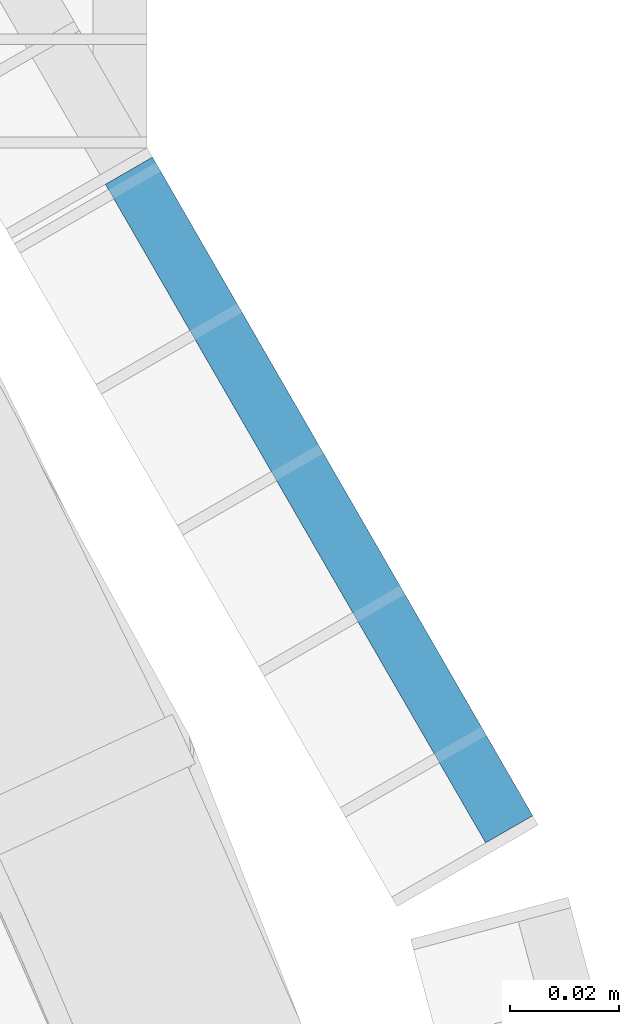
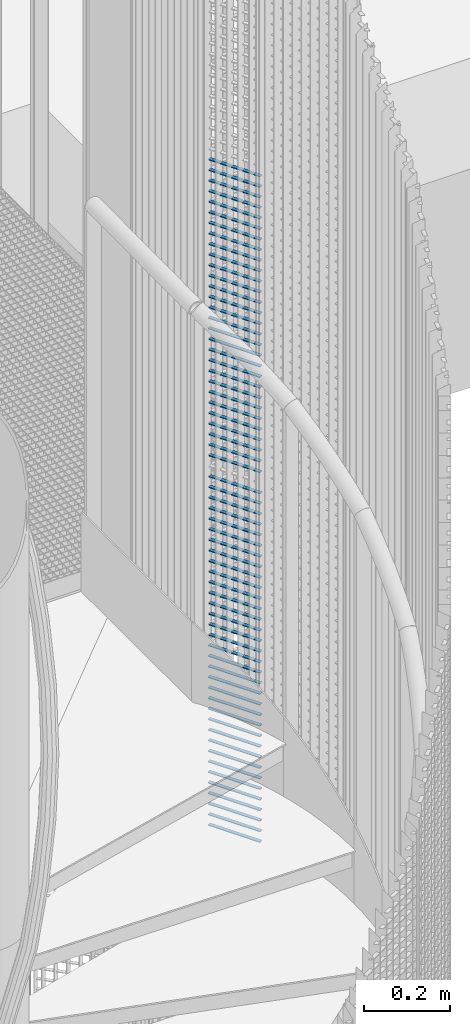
# One storey, part 293 of 1183: 63 beams, 1 element without a shape of its own.
"""IFC2X3 building model written with IfcOpenShell, lengths in millimetres."""

from ifc_helpers import new_model, si_unit, frame, origin_with_axes, origin_2d_with_axis, place, context, subcontext, project, spatial, rectangle, extrude, material, type_object, element, aggregate, save


model = new_model("IFC2X3")

# Units and contexts
model_context = context("Model", 3, precision=1e-05, world=origin_with_axes())
body_context = subcontext(model_context, "Body", "Model", "MODEL_VIEW")
ifc_project = project(units=[si_unit("LENGTHUNIT", "METRE", prefix="MILLI"), si_unit("AREAUNIT", "SQUARE_METRE"), si_unit("VOLUMEUNIT", "CUBIC_METRE"), si_unit("MASSUNIT", "GRAM", prefix="KILO"), si_unit("TIMEUNIT", "SECOND"), si_unit("PLANEANGLEUNIT", "RADIAN"), si_unit("SOLIDANGLEUNIT", "STERADIAN"), si_unit("THERMODYNAMICTEMPERATUREUNIT", "DEGREE_CELSIUS"), si_unit("LUMINOUSINTENSITYUNIT", "LUMEN")], contexts=[model_context])

# Site, building, storey
site_placement = place(None, origin_with_axes())
site = spatial("IfcSite", under=ifc_project, at=site_placement, Name="Undefined", CompositionType="ELEMENT")
building_placement = place(site_placement, origin_with_axes())
building = spatial("IfcBuilding", under=site, at=building_placement, Name="Undefined", CompositionType="ELEMENT")
storey_placement = place(building_placement, origin_with_axes())
storey = spatial("IfcBuildingStorey", under=building, at=storey_placement, Name="Undefined", CompositionType="ELEMENT", Elevation=0.0)

# Assembly, beams
assembly_placement = place(storey_placement, origin_with_axes())
assembly = element("IfcElementAssembly", 1, at=assembly_placement, inside=storey, Name="BORDURE", AssemblyPlace="NOTDEFINED", PredefinedType="NOTDEFINED")
ifc_material = material(Name="STEEL/S235JR")
beam_type = type_object("IfcBeamType", Name="PL2*10", PredefinedType="NOTDEFINED")
beam_1_placement = place(assembly_placement, frame((1033.29994283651, 437.231999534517, 7980.0), z_axis=(0.866030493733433, 0.499991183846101, 0.0), x_axis=(-0.499991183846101, 0.866030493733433, 0.0)))
beam_1 = element("IfcBeam", 2, at=beam_1_placement, type_object=beam_type, material=ifc_material, Name="ENTRETOISE", context=body_context, shape_type="SweptSolid", body=[
    extrude(rectangle(XDim=2.0, YDim=10.0, at=origin_2d_with_axis()), frame((140.102470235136, 0.0, 0.0), z_axis=(-1.0, 0.0, 0.0), x_axis=(0.0, -1.0, 0.0)), (0.0, 0.0, 1.0), 140.1),
])
beam_2_placement = place(assembly_placement, frame((1033.29994283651, 437.231999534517, 7950.0), z_axis=(0.866030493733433, 0.499991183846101, 0.0), x_axis=(-0.499991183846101, 0.866030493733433, 0.0)))
beam_2 = element("IfcBeam", 3, at=beam_2_placement, type_object=beam_type, material=ifc_material, Name="ENTRETOISE", context=body_context, shape_type="SweptSolid", body=[
    extrude(rectangle(XDim=2.0, YDim=10.0, at=origin_2d_with_axis()), frame((140.102470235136, 0.0, 0.0), z_axis=(-1.0, 0.0, 0.0), x_axis=(0.0, -1.0, 0.0)), (0.0, 0.0, 1.0), 140.1),
])
beam_3_placement = place(assembly_placement, frame((1033.29994283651, 437.231999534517, 7920.0), z_axis=(0.866030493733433, 0.499991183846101, 0.0), x_axis=(-0.499991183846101, 0.866030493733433, 0.0)))
beam_3 = element("IfcBeam", 4, at=beam_3_placement, type_object=beam_type, material=ifc_material, Name="ENTRETOISE", context=body_context, shape_type="SweptSolid", body=[
    extrude(rectangle(XDim=2.0, YDim=10.0, at=origin_2d_with_axis()), frame((140.102470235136, 0.0, 0.0), z_axis=(-1.0, 0.0, 0.0), x_axis=(0.0, -1.0, 0.0)), (0.0, 0.0, 1.0), 140.1),
])
beam_4_placement = place(assembly_placement, frame((1033.29994283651, 437.231999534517, 7890.0), z_axis=(0.866030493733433, 0.499991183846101, 0.0), x_axis=(-0.499991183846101, 0.866030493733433, 0.0)))
beam_4 = element("IfcBeam", 5, at=beam_4_placement, type_object=beam_type, material=ifc_material, Name="ENTRETOISE", context=body_context, shape_type="SweptSolid", body=[
    extrude(rectangle(XDim=2.0, YDim=10.0, at=origin_2d_with_axis()), frame((140.102470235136, 0.0, 0.0), z_axis=(-1.0, 0.0, 0.0), x_axis=(0.0, -1.0, 0.0)), (0.0, 0.0, 1.0), 140.1),
])
beam_5_placement = place(assembly_placement, frame((1033.29994283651, 437.231999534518, 7860.0), z_axis=(0.866030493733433, 0.499991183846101, 0.0), x_axis=(-0.499991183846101, 0.866030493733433, 0.0)))
beam_5 = element("IfcBeam", 6, at=beam_5_placement, type_object=beam_type, material=ifc_material, Name="ENTRETOISE", context=body_context, shape_type="SweptSolid", body=[
    extrude(rectangle(XDim=2.0, YDim=10.0, at=origin_2d_with_axis()), frame((140.102470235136, 0.0, 0.0), z_axis=(-1.0, 0.0, 0.0), x_axis=(0.0, -1.0, 0.0)), (0.0, 0.0, 1.0), 140.1),
])
beam_6_placement = place(assembly_placement, frame((1033.29994283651, 437.231999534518, 7830.0), z_axis=(0.866030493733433, 0.499991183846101, 0.0), x_axis=(-0.499991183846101, 0.866030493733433, 0.0)))
beam_6 = element("IfcBeam", 7, at=beam_6_placement, type_object=beam_type, material=ifc_material, Name="ENTRETOISE", context=body_context, shape_type="SweptSolid", body=[
    extrude(rectangle(XDim=2.0, YDim=10.0, at=origin_2d_with_axis()), frame((140.102470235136, 0.0, 0.0), z_axis=(-1.0, 0.0, 0.0), x_axis=(0.0, -1.0, 0.0)), (0.0, 0.0, 1.0), 140.1),
])
beam_7_placement = place(assembly_placement, frame((1033.29994283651, 437.231999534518, 7800.0), z_axis=(0.866030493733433, 0.499991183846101, 0.0), x_axis=(-0.499991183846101, 0.866030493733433, 0.0)))
beam_7 = element("IfcBeam", 8, at=beam_7_placement, type_object=beam_type, material=ifc_material, Name="ENTRETOISE", context=body_context, shape_type="SweptSolid", body=[
    extrude(rectangle(XDim=2.0, YDim=10.0, at=origin_2d_with_axis()), frame((140.102470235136, 0.0, 0.0), z_axis=(-1.0, 0.0, 0.0), x_axis=(0.0, -1.0, 0.0)), (0.0, 0.0, 1.0), 140.1),
])
beam_8_placement = place(assembly_placement, frame((1033.29994283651, 437.231999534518, 7770.0), z_axis=(0.866030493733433, 0.499991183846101, 0.0), x_axis=(-0.499991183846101, 0.866030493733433, 0.0)))
beam_8 = element("IfcBeam", 9, at=beam_8_placement, type_object=beam_type, material=ifc_material, Name="ENTRETOISE", context=body_context, shape_type="SweptSolid", body=[
    extrude(rectangle(XDim=2.0, YDim=10.0, at=origin_2d_with_axis()), frame((140.102470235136, 0.0, 0.0), z_axis=(-1.0, 0.0, 0.0), x_axis=(0.0, -1.0, 0.0)), (0.0, 0.0, 1.0), 140.1),
])
beam_9_placement = place(assembly_placement, frame((1033.29994283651, 437.231999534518, 7740.0), z_axis=(0.866030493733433, 0.499991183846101, 0.0), x_axis=(-0.499991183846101, 0.866030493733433, 0.0)))
beam_9 = element("IfcBeam", 10, at=beam_9_placement, type_object=beam_type, material=ifc_material, Name="ENTRETOISE", context=body_context, shape_type="SweptSolid", body=[
    extrude(rectangle(XDim=2.0, YDim=10.0, at=origin_2d_with_axis()), frame((140.102470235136, 0.0, 0.0), z_axis=(-1.0, 0.0, 0.0), x_axis=(0.0, -1.0, 0.0)), (0.0, 0.0, 1.0), 140.1),
])
beam_10_placement = place(assembly_placement, frame((1033.29994283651, 437.231999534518, 7710.0), z_axis=(0.866030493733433, 0.499991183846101, 0.0), x_axis=(-0.499991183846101, 0.866030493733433, 0.0)))
beam_10 = element("IfcBeam", 11, at=beam_10_placement, type_object=beam_type, material=ifc_material, Name="ENTRETOISE", context=body_context, shape_type="SweptSolid", body=[
    extrude(rectangle(XDim=2.0, YDim=10.0, at=origin_2d_with_axis()), frame((140.102470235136, 0.0, 0.0), z_axis=(-1.0, 0.0, 0.0), x_axis=(0.0, -1.0, 0.0)), (0.0, 0.0, 1.0), 140.1),
])
beam_11_placement = place(assembly_placement, frame((1033.29994283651, 437.231999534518, 7680.0), z_axis=(0.866030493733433, 0.499991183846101, 0.0), x_axis=(-0.499991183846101, 0.866030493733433, 0.0)))
beam_11 = element("IfcBeam", 12, at=beam_11_placement, type_object=beam_type, material=ifc_material, Name="ENTRETOISE", context=body_context, shape_type="SweptSolid", body=[
    extrude(rectangle(XDim=2.0, YDim=10.0, at=origin_2d_with_axis()), frame((140.102470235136, 0.0, 0.0), z_axis=(-1.0, 0.0, 0.0), x_axis=(0.0, -1.0, 0.0)), (0.0, 0.0, 1.0), 140.1),
])
beam_12_placement = place(assembly_placement, frame((1033.29994283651, 437.231999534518, 7650.0), z_axis=(0.866030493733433, 0.499991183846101, 0.0), x_axis=(-0.499991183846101, 0.866030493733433, 0.0)))
beam_12 = element("IfcBeam", 13, at=beam_12_placement, type_object=beam_type, material=ifc_material, Name="ENTRETOISE", context=body_context, shape_type="SweptSolid", body=[
    extrude(rectangle(XDim=2.0, YDim=10.0, at=origin_2d_with_axis()), frame((140.102470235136, 0.0, 0.0), z_axis=(-1.0, 0.0, 0.0), x_axis=(0.0, -1.0, 0.0)), (0.0, 0.0, 1.0), 140.1),
])
beam_13_placement = place(assembly_placement, frame((1033.29994283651, 437.231999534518, 7620.0), z_axis=(0.866030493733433, 0.499991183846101, 0.0), x_axis=(-0.499991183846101, 0.866030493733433, 0.0)))
beam_13 = element("IfcBeam", 14, at=beam_13_placement, type_object=beam_type, material=ifc_material, Name="ENTRETOISE", context=body_context, shape_type="SweptSolid", body=[
    extrude(rectangle(XDim=2.0, YDim=10.0, at=origin_2d_with_axis()), frame((140.102470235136, 0.0, 0.0), z_axis=(-1.0, 0.0, 0.0), x_axis=(0.0, -1.0, 0.0)), (0.0, 0.0, 1.0), 140.1),
])
beam_14_placement = place(assembly_placement, frame((1033.29994283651, 437.231999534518, 7590.0), z_axis=(0.866030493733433, 0.499991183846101, 0.0), x_axis=(-0.499991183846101, 0.866030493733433, 0.0)))
beam_14 = element("IfcBeam", 15, at=beam_14_placement, type_object=beam_type, material=ifc_material, Name="ENTRETOISE", context=body_context, shape_type="SweptSolid", body=[
    extrude(rectangle(XDim=2.0, YDim=10.0, at=origin_2d_with_axis()), frame((140.102470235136, 0.0, 0.0), z_axis=(-1.0, 0.0, 0.0), x_axis=(0.0, -1.0, 0.0)), (0.0, 0.0, 1.0), 140.1),
])
beam_15_placement = place(assembly_placement, frame((1033.29994283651, 437.231999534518, 7560.0), z_axis=(0.866030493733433, 0.499991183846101, 0.0), x_axis=(-0.499991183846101, 0.866030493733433, 0.0)))
beam_15 = element("IfcBeam", 16, at=beam_15_placement, type_object=beam_type, material=ifc_material, Name="ENTRETOISE", context=body_context, shape_type="SweptSolid", body=[
    extrude(rectangle(XDim=2.0, YDim=10.0, at=origin_2d_with_axis()), frame((140.102470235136, 0.0, 0.0), z_axis=(-1.0, 0.0, 0.0), x_axis=(0.0, -1.0, 0.0)), (0.0, 0.0, 1.0), 140.1),
])
beam_16_placement = place(assembly_placement, frame((1033.29994283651, 437.231999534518, 7530.0), z_axis=(0.866030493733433, 0.499991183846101, 0.0), x_axis=(-0.499991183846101, 0.866030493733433, 0.0)))
beam_16 = element("IfcBeam", 17, at=beam_16_placement, type_object=beam_type, material=ifc_material, Name="ENTRETOISE", context=body_context, shape_type="SweptSolid", body=[
    extrude(rectangle(XDim=2.0, YDim=10.0, at=origin_2d_with_axis()), frame((140.102470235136, 0.0, 0.0), z_axis=(-1.0, 0.0, 0.0), x_axis=(0.0, -1.0, 0.0)), (0.0, 0.0, 1.0), 140.1),
])
beam_17_placement = place(assembly_placement, frame((1033.29994283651, 437.231999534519, 7500.0), z_axis=(0.866030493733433, 0.499991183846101, 0.0), x_axis=(-0.499991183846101, 0.866030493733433, 0.0)))
beam_17 = element("IfcBeam", 18, at=beam_17_placement, type_object=beam_type, material=ifc_material, Name="ENTRETOISE", context=body_context, shape_type="SweptSolid", body=[
    extrude(rectangle(XDim=2.0, YDim=10.0, at=origin_2d_with_axis()), frame((140.102470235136, 0.0, 0.0), z_axis=(-1.0, 0.0, 0.0), x_axis=(0.0, -1.0, 0.0)), (0.0, 0.0, 1.0), 140.1),
])
beam_18_placement = place(assembly_placement, frame((1033.29994283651, 437.231999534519, 7470.0), z_axis=(0.866030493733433, 0.499991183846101, 0.0), x_axis=(-0.499991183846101, 0.866030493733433, 0.0)))
beam_18 = element("IfcBeam", 19, at=beam_18_placement, type_object=beam_type, material=ifc_material, Name="ENTRETOISE", context=body_context, shape_type="SweptSolid", body=[
    extrude(rectangle(XDim=2.0, YDim=10.0, at=origin_2d_with_axis()), frame((140.102470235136, 0.0, 0.0), z_axis=(-1.0, 0.0, 0.0), x_axis=(0.0, -1.0, 0.0)), (0.0, 0.0, 1.0), 140.1),
])
beam_19_placement = place(assembly_placement, frame((1033.29994283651, 437.231999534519, 7440.0), z_axis=(0.866030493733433, 0.499991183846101, 0.0), x_axis=(-0.499991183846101, 0.866030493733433, 0.0)))
beam_19 = element("IfcBeam", 20, at=beam_19_placement, type_object=beam_type, material=ifc_material, Name="ENTRETOISE", context=body_context, shape_type="SweptSolid", body=[
    extrude(rectangle(XDim=2.0, YDim=10.0, at=origin_2d_with_axis()), frame((140.102470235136, 0.0, 0.0), z_axis=(-1.0, 0.0, 0.0), x_axis=(0.0, -1.0, 0.0)), (0.0, 0.0, 1.0), 140.1),
])
beam_20_placement = place(assembly_placement, frame((1033.29994283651, 437.231999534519, 7410.0), z_axis=(0.866030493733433, 0.499991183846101, 0.0), x_axis=(-0.499991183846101, 0.866030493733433, 0.0)))
beam_20 = element("IfcBeam", 21, at=beam_20_placement, type_object=beam_type, material=ifc_material, Name="ENTRETOISE", context=body_context, shape_type="SweptSolid", body=[
    extrude(rectangle(XDim=2.0, YDim=10.0, at=origin_2d_with_axis()), frame((140.102470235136, 0.0, 0.0), z_axis=(-1.0, 0.0, 0.0), x_axis=(0.0, -1.0, 0.0)), (0.0, 0.0, 1.0), 140.1),
])
beam_21_placement = place(assembly_placement, frame((1033.29994283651, 437.231999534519, 7380.0), z_axis=(0.866030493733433, 0.499991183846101, 0.0), x_axis=(-0.499991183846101, 0.866030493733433, 0.0)))
beam_21 = element("IfcBeam", 22, at=beam_21_placement, type_object=beam_type, material=ifc_material, Name="ENTRETOISE", context=body_context, shape_type="SweptSolid", body=[
    extrude(rectangle(XDim=2.0, YDim=10.0, at=origin_2d_with_axis()), frame((140.102470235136, 0.0, 0.0), z_axis=(-1.0, 0.0, 0.0), x_axis=(0.0, -1.0, 0.0)), (0.0, 0.0, 1.0), 140.1),
])
beam_22_placement = place(assembly_placement, frame((1033.29994283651, 437.231999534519, 7350.0), z_axis=(0.866030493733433, 0.499991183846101, 0.0), x_axis=(-0.499991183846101, 0.866030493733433, 0.0)))
beam_22 = element("IfcBeam", 23, at=beam_22_placement, type_object=beam_type, material=ifc_material, Name="ENTRETOISE", context=body_context, shape_type="SweptSolid", body=[
    extrude(rectangle(XDim=2.0, YDim=10.0, at=origin_2d_with_axis()), frame((140.102470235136, 0.0, 0.0), z_axis=(-1.0, 0.0, 0.0), x_axis=(0.0, -1.0, 0.0)), (0.0, 0.0, 1.0), 140.1),
])
beam_23_placement = place(assembly_placement, frame((1033.29994283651, 437.231999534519, 7320.0), z_axis=(0.866030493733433, 0.499991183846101, 0.0), x_axis=(-0.499991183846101, 0.866030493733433, 0.0)))
beam_23 = element("IfcBeam", 24, at=beam_23_placement, type_object=beam_type, material=ifc_material, Name="ENTRETOISE", context=body_context, shape_type="SweptSolid", body=[
    extrude(rectangle(XDim=2.0, YDim=10.0, at=origin_2d_with_axis()), frame((140.102470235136, 0.0, 0.0), z_axis=(-1.0, 0.0, 0.0), x_axis=(0.0, -1.0, 0.0)), (0.0, 0.0, 1.0), 140.1),
])
beam_24_placement = place(assembly_placement, frame((1033.29994283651, 437.231999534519, 7290.0), z_axis=(0.866030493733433, 0.499991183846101, 0.0), x_axis=(-0.499991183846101, 0.866030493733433, 0.0)))
beam_24 = element("IfcBeam", 25, at=beam_24_placement, type_object=beam_type, material=ifc_material, Name="ENTRETOISE", context=body_context, shape_type="SweptSolid", body=[
    extrude(rectangle(XDim=2.0, YDim=10.0, at=origin_2d_with_axis()), frame((140.102470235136, 0.0, 0.0), z_axis=(-1.0, 0.0, 0.0), x_axis=(0.0, -1.0, 0.0)), (0.0, 0.0, 1.0), 140.1),
])
beam_25_placement = place(assembly_placement, frame((1033.29994283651, 437.231999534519, 7260.0), z_axis=(0.866030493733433, 0.499991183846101, 0.0), x_axis=(-0.499991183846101, 0.866030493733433, 0.0)))
beam_25 = element("IfcBeam", 26, at=beam_25_placement, type_object=beam_type, material=ifc_material, Name="ENTRETOISE", context=body_context, shape_type="SweptSolid", body=[
    extrude(rectangle(XDim=2.0, YDim=10.0, at=origin_2d_with_axis()), frame((140.102470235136, 0.0, 0.0), z_axis=(-1.0, 0.0, 0.0), x_axis=(0.0, -1.0, 0.0)), (0.0, 0.0, 1.0), 140.1),
])
beam_26_placement = place(assembly_placement, frame((1033.29994283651, 437.231999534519, 7230.0), z_axis=(0.866030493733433, 0.499991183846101, 0.0), x_axis=(-0.499991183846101, 0.866030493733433, 0.0)))
beam_26 = element("IfcBeam", 27, at=beam_26_placement, type_object=beam_type, material=ifc_material, Name="ENTRETOISE", context=body_context, shape_type="SweptSolid", body=[
    extrude(rectangle(XDim=2.0, YDim=10.0, at=origin_2d_with_axis()), frame((140.102470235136, 0.0, 0.0), z_axis=(-1.0, 0.0, 0.0), x_axis=(0.0, -1.0, 0.0)), (0.0, 0.0, 1.0), 140.1),
])
beam_27_placement = place(assembly_placement, frame((1033.29994283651, 437.231999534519, 7200.0), z_axis=(0.866030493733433, 0.499991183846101, 0.0), x_axis=(-0.499991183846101, 0.866030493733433, 0.0)))
beam_27 = element("IfcBeam", 28, at=beam_27_placement, type_object=beam_type, material=ifc_material, Name="ENTRETOISE", context=body_context, shape_type="SweptSolid", body=[
    extrude(rectangle(XDim=2.0, YDim=10.0, at=origin_2d_with_axis()), frame((140.102470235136, 0.0, 0.0), z_axis=(-1.0, 0.0, 0.0), x_axis=(0.0, -1.0, 0.0)), (0.0, 0.0, 1.0), 140.1),
])
beam_28_placement = place(assembly_placement, frame((1033.29994283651, 437.23199953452, 7170.0), z_axis=(0.866030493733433, 0.499991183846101, 0.0), x_axis=(-0.499991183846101, 0.866030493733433, 0.0)))
beam_28 = element("IfcBeam", 29, at=beam_28_placement, type_object=beam_type, material=ifc_material, Name="ENTRETOISE", context=body_context, shape_type="SweptSolid", body=[
    extrude(rectangle(XDim=2.0, YDim=10.0, at=origin_2d_with_axis()), frame((140.102470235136, 0.0, 0.0), z_axis=(-1.0, 0.0, 0.0), x_axis=(0.0, -1.0, 0.0)), (0.0, 0.0, 1.0), 140.1),
])
beam_29_placement = place(assembly_placement, frame((1033.29994283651, 437.23199953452, 7140.0), z_axis=(0.866030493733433, 0.499991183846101, 0.0), x_axis=(-0.499991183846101, 0.866030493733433, 0.0)))
beam_29 = element("IfcBeam", 30, at=beam_29_placement, type_object=beam_type, material=ifc_material, Name="ENTRETOISE", context=body_context, shape_type="SweptSolid", body=[
    extrude(rectangle(XDim=2.0, YDim=10.0, at=origin_2d_with_axis()), frame((140.102470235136, 0.0, 0.0), z_axis=(-1.0, 0.0, 0.0), x_axis=(0.0, -1.0, 0.0)), (0.0, 0.0, 1.0), 140.1),
])
beam_30_placement = place(assembly_placement, frame((1033.29994283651, 437.231999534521, 6720.0), z_axis=(0.866030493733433, 0.499991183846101, 0.0), x_axis=(-0.499991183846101, 0.866030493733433, 0.0)))
beam_30 = element("IfcBeam", 31, at=beam_30_placement, type_object=beam_type, material=ifc_material, Name="ENTRETOISE", context=body_context, shape_type="SweptSolid", body=[
    extrude(rectangle(XDim=2.0, YDim=10.0, at=origin_2d_with_axis()), frame((140.102470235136, 0.0, 0.0), z_axis=(-1.0, 0.0, 0.0), x_axis=(0.0, -1.0, 0.0)), (0.0, 0.0, 1.0), 140.1),
])
beam_31_placement = place(assembly_placement, frame((1033.29994283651, 437.231999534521, 6690.0), z_axis=(0.866030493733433, 0.499991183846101, 0.0), x_axis=(-0.499991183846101, 0.866030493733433, 0.0)))
beam_31 = element("IfcBeam", 32, at=beam_31_placement, type_object=beam_type, material=ifc_material, Name="ENTRETOISE", context=body_context, shape_type="SweptSolid", body=[
    extrude(rectangle(XDim=2.0, YDim=10.0, at=origin_2d_with_axis()), frame((140.102470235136, 0.0, 0.0), z_axis=(-1.0, 0.0, 0.0), x_axis=(0.0, -1.0, 0.0)), (0.0, 0.0, 1.0), 140.1),
])
beam_32_placement = place(assembly_placement, frame((1033.29994283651, 437.231999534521, 6750.0), z_axis=(0.866030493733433, 0.499991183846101, 0.0), x_axis=(-0.499991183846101, 0.866030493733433, 0.0)))
beam_32 = element("IfcBeam", 33, at=beam_32_placement, type_object=beam_type, material=ifc_material, Name="ENTRETOISE", context=body_context, shape_type="SweptSolid", body=[
    extrude(rectangle(XDim=2.0, YDim=10.0, at=origin_2d_with_axis()), frame((140.102470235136, 0.0, 0.0), z_axis=(-1.0, 0.0, 0.0), x_axis=(0.0, -1.0, 0.0)), (0.0, 0.0, 1.0), 140.1),
])
beam_33_placement = place(assembly_placement, frame((1033.29994283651, 437.231999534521, 6660.0), z_axis=(0.866030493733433, 0.499991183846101, 0.0), x_axis=(-0.499991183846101, 0.866030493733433, 0.0)))
beam_33 = element("IfcBeam", 34, at=beam_33_placement, type_object=beam_type, material=ifc_material, Name="ENTRETOISE", context=body_context, shape_type="SweptSolid", body=[
    extrude(rectangle(XDim=2.0, YDim=10.0, at=origin_2d_with_axis()), frame((140.102470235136, 0.0, 0.0), z_axis=(-1.0, 0.0, 0.0), x_axis=(0.0, -1.0, 0.0)), (0.0, 0.0, 1.0), 140.1),
])
beam_34_placement = place(assembly_placement, frame((1033.29994283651, 437.231999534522, 6630.0), z_axis=(0.866030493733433, 0.499991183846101, 0.0), x_axis=(-0.499991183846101, 0.866030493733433, 0.0)))
beam_34 = element("IfcBeam", 35, at=beam_34_placement, type_object=beam_type, material=ifc_material, Name="ENTRETOISE", context=body_context, shape_type="SweptSolid", body=[
    extrude(rectangle(XDim=2.0, YDim=10.0, at=origin_2d_with_axis()), frame((140.102470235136, 0.0, 0.0), z_axis=(-1.0, 0.0, 0.0), x_axis=(0.0, -1.0, 0.0)), (0.0, 0.0, 1.0), 140.1),
])
beam_35_placement = place(assembly_placement, frame((1033.29994283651, 437.231999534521, 6780.0), z_axis=(0.866030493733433, 0.499991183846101, 0.0), x_axis=(-0.499991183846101, 0.866030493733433, 0.0)))
beam_35 = element("IfcBeam", 36, at=beam_35_placement, type_object=beam_type, material=ifc_material, Name="ENTRETOISE", context=body_context, shape_type="SweptSolid", body=[
    extrude(rectangle(XDim=2.0, YDim=10.0, at=origin_2d_with_axis()), frame((140.102470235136, 0.0, 0.0), z_axis=(-1.0, 0.0, 0.0), x_axis=(0.0, -1.0, 0.0)), (0.0, 0.0, 1.0), 140.1),
])
beam_36_placement = place(assembly_placement, frame((1033.29994283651, 437.231999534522, 6600.0), z_axis=(0.866030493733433, 0.499991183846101, 0.0), x_axis=(-0.499991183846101, 0.866030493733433, 0.0)))
beam_36 = element("IfcBeam", 37, at=beam_36_placement, type_object=beam_type, material=ifc_material, Name="ENTRETOISE", context=body_context, shape_type="SweptSolid", body=[
    extrude(rectangle(XDim=2.0, YDim=10.0, at=origin_2d_with_axis()), frame((140.102470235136, 0.0, 0.0), z_axis=(-1.0, 0.0, 0.0), x_axis=(0.0, -1.0, 0.0)), (0.0, 0.0, 1.0), 140.1),
])
beam_37_placement = place(assembly_placement, frame((1033.29994283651, 437.231999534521, 6810.0), z_axis=(0.866030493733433, 0.499991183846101, 0.0), x_axis=(-0.499991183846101, 0.866030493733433, 0.0)))
beam_37 = element("IfcBeam", 38, at=beam_37_placement, type_object=beam_type, material=ifc_material, Name="ENTRETOISE", context=body_context, shape_type="SweptSolid", body=[
    extrude(rectangle(XDim=2.0, YDim=10.0, at=origin_2d_with_axis()), frame((140.102470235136, 0.0, 0.0), z_axis=(-1.0, 0.0, 0.0), x_axis=(0.0, -1.0, 0.0)), (0.0, 0.0, 1.0), 140.1),
])
beam_38_placement = place(assembly_placement, frame((1033.29994283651, 437.231999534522, 6570.0), z_axis=(0.866030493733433, 0.499991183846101, 0.0), x_axis=(-0.499991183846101, 0.866030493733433, 0.0)))
beam_38 = element("IfcBeam", 39, at=beam_38_placement, type_object=beam_type, material=ifc_material, Name="ENTRETOISE", context=body_context, shape_type="SweptSolid", body=[
    extrude(rectangle(XDim=2.0, YDim=10.0, at=origin_2d_with_axis()), frame((140.102470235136, 0.0, 0.0), z_axis=(-1.0, 0.0, 0.0), x_axis=(0.0, -1.0, 0.0)), (0.0, 0.0, 1.0), 140.1),
])
beam_39_placement = place(assembly_placement, frame((1033.29994283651, 437.231999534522, 6540.0), z_axis=(0.866030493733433, 0.499991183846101, 0.0), x_axis=(-0.499991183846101, 0.866030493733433, 0.0)))
beam_39 = element("IfcBeam", 40, at=beam_39_placement, type_object=beam_type, material=ifc_material, Name="ENTRETOISE", context=body_context, shape_type="SweptSolid", body=[
    extrude(rectangle(XDim=2.0, YDim=10.0, at=origin_2d_with_axis()), frame((140.102470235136, 0.0, 0.0), z_axis=(-1.0, 0.0, 0.0), x_axis=(0.0, -1.0, 0.0)), (0.0, 0.0, 1.0), 140.1),
])
beam_40_placement = place(assembly_placement, frame((1033.29994283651, 437.231999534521, 6840.0), z_axis=(0.866030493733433, 0.499991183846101, 0.0), x_axis=(-0.499991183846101, 0.866030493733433, 0.0)))
beam_40 = element("IfcBeam", 41, at=beam_40_placement, type_object=beam_type, material=ifc_material, Name="ENTRETOISE", context=body_context, shape_type="SweptSolid", body=[
    extrude(rectangle(XDim=2.0, YDim=10.0, at=origin_2d_with_axis()), frame((140.102470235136, 0.0, 0.0), z_axis=(-1.0, 0.0, 0.0), x_axis=(0.0, -1.0, 0.0)), (0.0, 0.0, 1.0), 140.1),
])
beam_41_placement = place(assembly_placement, frame((1033.29994283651, 437.231999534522, 6510.0), z_axis=(0.866030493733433, 0.499991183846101, 0.0), x_axis=(-0.499991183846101, 0.866030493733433, 0.0)))
beam_41 = element("IfcBeam", 42, at=beam_41_placement, type_object=beam_type, material=ifc_material, Name="ENTRETOISE", context=body_context, shape_type="SweptSolid", body=[
    extrude(rectangle(XDim=2.0, YDim=10.0, at=origin_2d_with_axis()), frame((140.102470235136, 0.0, 0.0), z_axis=(-1.0, 0.0, 0.0), x_axis=(0.0, -1.0, 0.0)), (0.0, 0.0, 1.0), 140.1),
])
beam_42_placement = place(assembly_placement, frame((1033.29994283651, 437.231999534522, 6480.0), z_axis=(0.866030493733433, 0.499991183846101, 0.0), x_axis=(-0.499991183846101, 0.866030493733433, 0.0)))
beam_42 = element("IfcBeam", 43, at=beam_42_placement, type_object=beam_type, material=ifc_material, Name="ENTRETOISE", context=body_context, shape_type="SweptSolid", body=[
    extrude(rectangle(XDim=2.0, YDim=10.0, at=origin_2d_with_axis()), frame((140.102470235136, 0.0, 0.0), z_axis=(-1.0, 0.0, 0.0), x_axis=(0.0, -1.0, 0.0)), (0.0, 0.0, 1.0), 140.1),
])
beam_43_placement = place(assembly_placement, frame((1033.29994283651, 437.231999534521, 6870.0), z_axis=(0.866030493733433, 0.499991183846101, 0.0), x_axis=(-0.499991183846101, 0.866030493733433, 0.0)))
beam_43 = element("IfcBeam", 44, at=beam_43_placement, type_object=beam_type, material=ifc_material, Name="ENTRETOISE", context=body_context, shape_type="SweptSolid", body=[
    extrude(rectangle(XDim=2.0, YDim=10.0, at=origin_2d_with_axis()), frame((140.102470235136, 0.0, 0.0), z_axis=(-1.0, 0.0, 0.0), x_axis=(0.0, -1.0, 0.0)), (0.0, 0.0, 1.0), 140.1),
])
beam_44_placement = place(assembly_placement, frame((1033.29994283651, 437.231999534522, 6450.0), z_axis=(0.866030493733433, 0.499991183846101, 0.0), x_axis=(-0.499991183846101, 0.866030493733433, 0.0)))
beam_44 = element("IfcBeam", 45, at=beam_44_placement, type_object=beam_type, material=ifc_material, Name="ENTRETOISE", context=body_context, shape_type="SweptSolid", body=[
    extrude(rectangle(XDim=2.0, YDim=10.0, at=origin_2d_with_axis()), frame((140.102470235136, 0.0, 0.0), z_axis=(-1.0, 0.0, 0.0), x_axis=(0.0, -1.0, 0.0)), (0.0, 0.0, 1.0), 140.1),
])
beam_45_placement = place(assembly_placement, frame((1033.29994283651, 437.231999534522, 6420.0), z_axis=(0.866030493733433, 0.499991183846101, 0.0), x_axis=(-0.499991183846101, 0.866030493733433, 0.0)))
beam_45 = element("IfcBeam", 46, at=beam_45_placement, type_object=beam_type, material=ifc_material, Name="ENTRETOISE", context=body_context, shape_type="SweptSolid", body=[
    extrude(rectangle(XDim=2.0, YDim=10.0, at=origin_2d_with_axis()), frame((140.102470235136, 0.0, 0.0), z_axis=(-1.0, 0.0, 0.0), x_axis=(0.0, -1.0, 0.0)), (0.0, 0.0, 1.0), 140.1),
])
beam_46_placement = place(assembly_placement, frame((1033.29994283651, 437.231999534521, 6900.0), z_axis=(0.866030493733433, 0.499991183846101, 0.0), x_axis=(-0.499991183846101, 0.866030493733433, 0.0)))
beam_46 = element("IfcBeam", 47, at=beam_46_placement, type_object=beam_type, material=ifc_material, Name="ENTRETOISE", context=body_context, shape_type="SweptSolid", body=[
    extrude(rectangle(XDim=2.0, YDim=10.0, at=origin_2d_with_axis()), frame((140.102470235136, 0.0, 0.0), z_axis=(-1.0, 0.0, 0.0), x_axis=(0.0, -1.0, 0.0)), (0.0, 0.0, 1.0), 140.1),
])
beam_47_placement = place(assembly_placement, frame((1033.29994283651, 437.231999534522, 6390.0), z_axis=(0.866030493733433, 0.499991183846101, 0.0), x_axis=(-0.499991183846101, 0.866030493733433, 0.0)))
beam_47 = element("IfcBeam", 48, at=beam_47_placement, type_object=beam_type, material=ifc_material, Name="ENTRETOISE", context=body_context, shape_type="SweptSolid", body=[
    extrude(rectangle(XDim=2.0, YDim=10.0, at=origin_2d_with_axis()), frame((140.102470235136, 0.0, 0.0), z_axis=(-1.0, 0.0, 0.0), x_axis=(0.0, -1.0, 0.0)), (0.0, 0.0, 1.0), 140.1),
])
beam_48_placement = place(assembly_placement, frame((1033.29994283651, 437.23199953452, 6930.0), z_axis=(0.866030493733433, 0.499991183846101, 0.0), x_axis=(-0.499991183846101, 0.866030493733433, 0.0)))
beam_48 = element("IfcBeam", 49, at=beam_48_placement, type_object=beam_type, material=ifc_material, Name="ENTRETOISE", context=body_context, shape_type="SweptSolid", body=[
    extrude(rectangle(XDim=2.0, YDim=10.0, at=origin_2d_with_axis()), frame((140.102470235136, 0.0, 0.0), z_axis=(-1.0, 0.0, 0.0), x_axis=(0.0, -1.0, 0.0)), (0.0, 0.0, 1.0), 140.1),
])
beam_49_placement = place(assembly_placement, frame((1033.29994283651, 437.231999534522, 6360.0), z_axis=(0.866030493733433, 0.499991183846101, 0.0), x_axis=(-0.499991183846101, 0.866030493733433, 0.0)))
beam_49 = element("IfcBeam", 50, at=beam_49_placement, type_object=beam_type, material=ifc_material, Name="ENTRETOISE", context=body_context, shape_type="SweptSolid", body=[
    extrude(rectangle(XDim=2.0, YDim=10.0, at=origin_2d_with_axis()), frame((140.102470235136, 0.0, 0.0), z_axis=(-1.0, 0.0, 0.0), x_axis=(0.0, -1.0, 0.0)), (0.0, 0.0, 1.0), 140.1),
])
beam_50_placement = place(assembly_placement, frame((1033.29994283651, 437.231999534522, 6330.0), z_axis=(0.866030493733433, 0.499991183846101, 0.0), x_axis=(-0.499991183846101, 0.866030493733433, 0.0)))
beam_50 = element("IfcBeam", 51, at=beam_50_placement, type_object=beam_type, material=ifc_material, Name="ENTRETOISE", context=body_context, shape_type="SweptSolid", body=[
    extrude(rectangle(XDim=2.0, YDim=10.0, at=origin_2d_with_axis()), frame((140.102470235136, 0.0, 0.0), z_axis=(-1.0, 0.0, 0.0), x_axis=(0.0, -1.0, 0.0)), (0.0, 0.0, 1.0), 140.1),
])
beam_51_placement = place(assembly_placement, frame((1033.29994283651, 437.23199953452, 6960.0), z_axis=(0.866030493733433, 0.499991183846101, 0.0), x_axis=(-0.499991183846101, 0.866030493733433, 0.0)))
beam_51 = element("IfcBeam", 52, at=beam_51_placement, type_object=beam_type, material=ifc_material, Name="ENTRETOISE", context=body_context, shape_type="SweptSolid", body=[
    extrude(rectangle(XDim=2.0, YDim=10.0, at=origin_2d_with_axis()), frame((140.102470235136, 0.0, 0.0), z_axis=(-1.0, 0.0, 0.0), x_axis=(0.0, -1.0, 0.0)), (0.0, 0.0, 1.0), 140.1),
])
beam_52_placement = place(assembly_placement, frame((1033.29994283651, 437.231999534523, 6300.0), z_axis=(0.866030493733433, 0.499991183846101, 0.0), x_axis=(-0.499991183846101, 0.866030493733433, 0.0)))
beam_52 = element("IfcBeam", 53, at=beam_52_placement, type_object=beam_type, material=ifc_material, Name="ENTRETOISE", context=body_context, shape_type="SweptSolid", body=[
    extrude(rectangle(XDim=2.0, YDim=10.0, at=origin_2d_with_axis()), frame((140.102470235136, 0.0, 0.0), z_axis=(-1.0, 0.0, 0.0), x_axis=(0.0, -1.0, 0.0)), (0.0, 0.0, 1.0), 140.1),
])
beam_53_placement = place(assembly_placement, frame((1033.29994283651, 437.231999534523, 6270.0), z_axis=(0.866030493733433, 0.499991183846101, 0.0), x_axis=(-0.499991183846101, 0.866030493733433, 0.0)))
beam_53 = element("IfcBeam", 54, at=beam_53_placement, type_object=beam_type, material=ifc_material, Name="ENTRETOISE", context=body_context, shape_type="SweptSolid", body=[
    extrude(rectangle(XDim=2.0, YDim=10.0, at=origin_2d_with_axis()), frame((140.102470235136, 0.0, 0.0), z_axis=(-1.0, 0.0, 0.0), x_axis=(0.0, -1.0, 0.0)), (0.0, 0.0, 1.0), 140.1),
])
beam_54_placement = place(assembly_placement, frame((1033.29994283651, 437.23199953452, 6990.0), z_axis=(0.866030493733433, 0.499991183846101, 0.0), x_axis=(-0.499991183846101, 0.866030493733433, 0.0)))
beam_54 = element("IfcBeam", 55, at=beam_54_placement, type_object=beam_type, material=ifc_material, Name="ENTRETOISE", context=body_context, shape_type="SweptSolid", body=[
    extrude(rectangle(XDim=2.0, YDim=10.0, at=origin_2d_with_axis()), frame((140.102470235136, 0.0, 0.0), z_axis=(-1.0, 0.0, 0.0), x_axis=(0.0, -1.0, 0.0)), (0.0, 0.0, 1.0), 140.1),
])
beam_55_placement = place(assembly_placement, frame((1033.29994283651, 437.231999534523, 6240.0), z_axis=(0.866030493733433, 0.499991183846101, 0.0), x_axis=(-0.499991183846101, 0.866030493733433, 0.0)))
beam_55 = element("IfcBeam", 56, at=beam_55_placement, type_object=beam_type, material=ifc_material, Name="ENTRETOISE", context=body_context, shape_type="SweptSolid", body=[
    extrude(rectangle(XDim=2.0, YDim=10.0, at=origin_2d_with_axis()), frame((140.102470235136, 0.0, 0.0), z_axis=(-1.0, 0.0, 0.0), x_axis=(0.0, -1.0, 0.0)), (0.0, 0.0, 1.0), 140.1),
])
beam_56_placement = place(assembly_placement, frame((1033.29994283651, 437.23199953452, 7020.0), z_axis=(0.866030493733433, 0.499991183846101, 0.0), x_axis=(-0.499991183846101, 0.866030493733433, 0.0)))
beam_56 = element("IfcBeam", 57, at=beam_56_placement, type_object=beam_type, material=ifc_material, Name="ENTRETOISE", context=body_context, shape_type="SweptSolid", body=[
    extrude(rectangle(XDim=2.0, YDim=10.0, at=origin_2d_with_axis()), frame((140.102470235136, 0.0, 0.0), z_axis=(-1.0, 0.0, 0.0), x_axis=(0.0, -1.0, 0.0)), (0.0, 0.0, 1.0), 140.1),
])
beam_57_placement = place(assembly_placement, frame((1033.29994283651, 437.231999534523, 6210.0), z_axis=(0.866030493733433, 0.499991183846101, 0.0), x_axis=(-0.499991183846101, 0.866030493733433, 0.0)))
beam_57 = element("IfcBeam", 58, at=beam_57_placement, type_object=beam_type, material=ifc_material, Name="ENTRETOISE", context=body_context, shape_type="SweptSolid", body=[
    extrude(rectangle(XDim=2.0, YDim=10.0, at=origin_2d_with_axis()), frame((140.102470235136, 0.0, 0.0), z_axis=(-1.0, 0.0, 0.0), x_axis=(0.0, -1.0, 0.0)), (0.0, 0.0, 1.0), 140.1),
])
beam_58_placement = place(assembly_placement, frame((1033.29994283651, 437.231999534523, 6180.0), z_axis=(0.866030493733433, 0.499991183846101, 0.0), x_axis=(-0.499991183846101, 0.866030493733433, 0.0)))
beam_58 = element("IfcBeam", 59, at=beam_58_placement, type_object=beam_type, material=ifc_material, Name="ENTRETOISE", context=body_context, shape_type="SweptSolid", body=[
    extrude(rectangle(XDim=2.0, YDim=10.0, at=origin_2d_with_axis()), frame((140.102470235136, 0.0, 0.0), z_axis=(-1.0, 0.0, 0.0), x_axis=(0.0, -1.0, 0.0)), (0.0, 0.0, 1.0), 140.1),
])
beam_59_placement = place(assembly_placement, frame((1033.29994283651, 437.23199953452, 7050.0), z_axis=(0.866030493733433, 0.499991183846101, 0.0), x_axis=(-0.499991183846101, 0.866030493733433, 0.0)))
beam_59 = element("IfcBeam", 60, at=beam_59_placement, type_object=beam_type, material=ifc_material, Name="ENTRETOISE", context=body_context, shape_type="SweptSolid", body=[
    extrude(rectangle(XDim=2.0, YDim=10.0, at=origin_2d_with_axis()), frame((140.102470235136, 0.0, 0.0), z_axis=(-1.0, 0.0, 0.0), x_axis=(0.0, -1.0, 0.0)), (0.0, 0.0, 1.0), 140.1),
])
beam_60_placement = place(assembly_placement, frame((1033.29994283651, 437.231999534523, 6150.0), z_axis=(0.866030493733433, 0.499991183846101, 0.0), x_axis=(-0.499991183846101, 0.866030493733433, 0.0)))
beam_60 = element("IfcBeam", 61, at=beam_60_placement, type_object=beam_type, material=ifc_material, Name="ENTRETOISE", context=body_context, shape_type="SweptSolid", body=[
    extrude(rectangle(XDim=2.0, YDim=10.0, at=origin_2d_with_axis()), frame((140.102470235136, 0.0, 0.0), z_axis=(-1.0, 0.0, 0.0), x_axis=(0.0, -1.0, 0.0)), (0.0, 0.0, 1.0), 140.1),
])
beam_61_placement = place(assembly_placement, frame((1033.29994283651, 437.231999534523, 6120.0), z_axis=(0.866030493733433, 0.499991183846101, 0.0), x_axis=(-0.499991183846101, 0.866030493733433, 0.0)))
beam_61 = element("IfcBeam", 62, at=beam_61_placement, type_object=beam_type, material=ifc_material, Name="ENTRETOISE", context=body_context, shape_type="SweptSolid", body=[
    extrude(rectangle(XDim=2.0, YDim=10.0, at=origin_2d_with_axis()), frame((140.102470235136, 0.0, 0.0), z_axis=(-1.0, 0.0, 0.0), x_axis=(0.0, -1.0, 0.0)), (0.0, 0.0, 1.0), 140.1),
])
beam_62_placement = place(assembly_placement, frame((1033.29994283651, 437.23199953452, 7080.0), z_axis=(0.866030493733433, 0.499991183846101, 0.0), x_axis=(-0.499991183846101, 0.866030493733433, 0.0)))
beam_62 = element("IfcBeam", 63, at=beam_62_placement, type_object=beam_type, material=ifc_material, Name="ENTRETOISE", context=body_context, shape_type="SweptSolid", body=[
    extrude(rectangle(XDim=2.0, YDim=10.0, at=origin_2d_with_axis()), frame((140.102470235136, 0.0, 0.0), z_axis=(-1.0, 0.0, 0.0), x_axis=(0.0, -1.0, 0.0)), (0.0, 0.0, 1.0), 140.1),
])
beam_63_placement = place(assembly_placement, frame((1033.29994283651, 437.231999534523, 6090.0), z_axis=(0.866030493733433, 0.499991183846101, 0.0), x_axis=(-0.499991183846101, 0.866030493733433, 0.0)))
beam_63 = element("IfcBeam", 64, at=beam_63_placement, type_object=beam_type, material=ifc_material, Name="ENTRETOISE", context=body_context, shape_type="SweptSolid", body=[
    extrude(rectangle(XDim=2.0, YDim=10.0, at=origin_2d_with_axis()), frame((140.102470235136, 0.0, 0.0), z_axis=(-1.0, 0.0, 0.0), x_axis=(0.0, -1.0, 0.0)), (0.0, 0.0, 1.0), 140.1),
])
aggregate(assembly, [beam_1, beam_2, beam_3, beam_4, beam_5, beam_6, beam_7, beam_8, beam_9, beam_10, beam_11, beam_12, beam_13, beam_14, beam_15, beam_16, beam_17, beam_18, beam_19, beam_20, beam_21, beam_22, beam_23, beam_24, beam_25, beam_26, beam_27, beam_28, beam_29, beam_30, beam_31, beam_32, beam_33, beam_34, beam_35, beam_36, beam_37, beam_38, beam_39, beam_40, beam_41, beam_42, beam_43, beam_44, beam_45, beam_46, beam_47, beam_48, beam_49, beam_50, beam_51, beam_52, beam_53, beam_54, beam_55, beam_56, beam_57, beam_58, beam_59, beam_60, beam_61, beam_62, beam_63])

save(model, "model.ifc")
